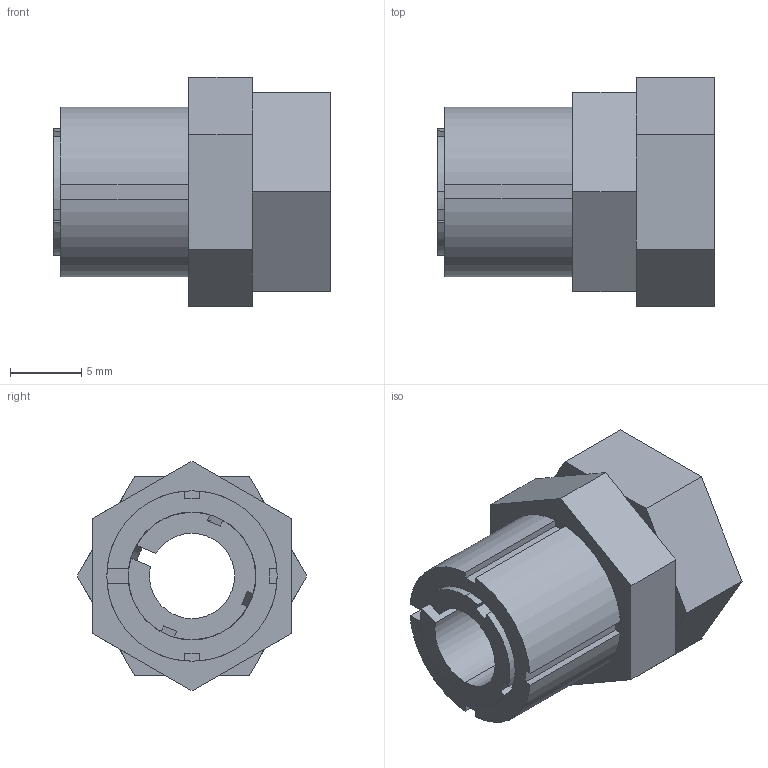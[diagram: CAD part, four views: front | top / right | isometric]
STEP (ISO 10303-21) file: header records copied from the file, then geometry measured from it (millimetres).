
FILE_DESCRIPTION (( 'STEP AP203' ), '1' );
FILE_NAME ('KBS 59 - 6 x 12.STEP', '2015-07-07T21:10:33', ( '' ), ( '' ), 'SwSTEP 2.0', 'SolidWorks 2010', '' );
FILE_SCHEMA (( 'CONFIG_CONTROL_DESIGN' ));
Length unit declared in the file: millimetre
Products named in the file (1): KBS 59 - 6 x 12
Bounding box: 19.5 x 16.17 x 16.17 mm (x, y, z)
Volume: 2000.9 mm3; surface area: 3020.3 mm2
Topology: 3 solids, 3 shells, 82 faces, 216 edges, 140 vertices
Faces by surface type: plane 62, cylinder 14, cone 6
Entity records: 2639 total; most frequent: CARTESIAN_POINT 520, ORIENTED_EDGE 432, DIRECTION 412, EDGE_CURVE 216, VECTOR 160, LINE 160, VERTEX_POINT 140, AXIS2_PLACEMENT_3D 126
